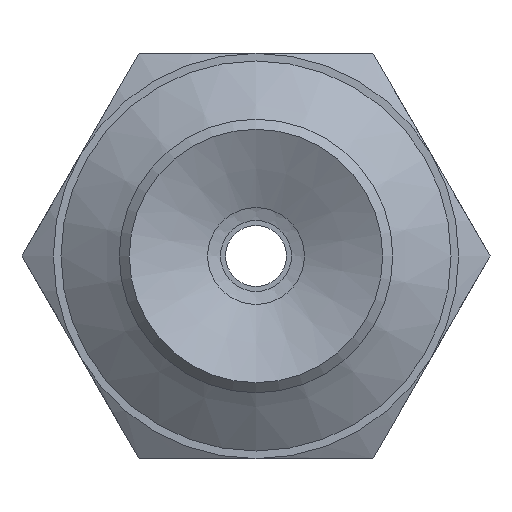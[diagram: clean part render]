
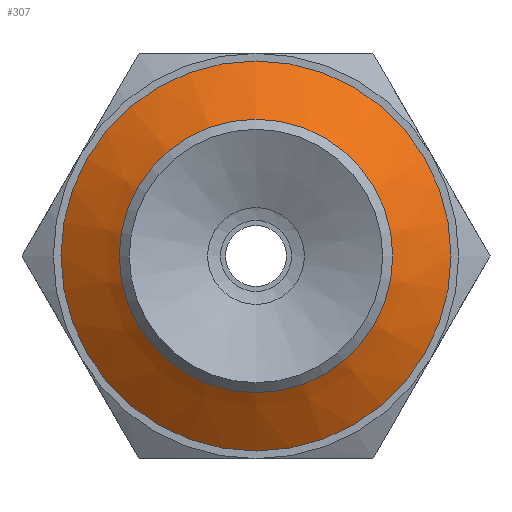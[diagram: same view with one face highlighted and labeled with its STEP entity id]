
A CAD part, front view. The second image highlights one B-rep face of the part: STEP entity #307.
In plain terms, the highlighted conical face has half-angle 55 degrees and reference radius 1.794 mm.
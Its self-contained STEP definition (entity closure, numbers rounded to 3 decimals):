
#307=ADVANCED_FACE('',(#427,#428),#429,.T.);
#427=FACE_BOUND('',#578,.T.);
#428=FACE_OUTER_BOUND('',#579,.T.);
#429=CONICAL_SURFACE('',#580,1.794,0.96);
#578=EDGE_LOOP('',(#884));
#579=EDGE_LOOP('',(#885));
#580=AXIS2_PLACEMENT_3D('',#886,#887,#888);
#884=ORIENTED_EDGE('',*,*,#1018,.T.);
#885=ORIENTED_EDGE('',*,*,#1015,.T.);
#886=CARTESIAN_POINT('',(0.0,7.118,0.));
#887=DIRECTION('',(0.0,1.0,0.));
#888=DIRECTION('',(0.0,0.,1.0));
#1015=EDGE_CURVE('',#1128,#1128,#1129,.T.);
#1018=EDGE_CURVE('',#1134,#1134,#1135,.T.);
#1128=VERTEX_POINT('',#1294);
#1129=CIRCLE('',#1295,3.85);
#1134=VERTEX_POINT('',#1300);
#1135=CIRCLE('',#1301,2.114);
#1294=CARTESIAN_POINT('',(0.0,8.558,-3.85));
#1295=AXIS2_PLACEMENT_3D('',#1430,#1431,#1432);
#1300=CARTESIAN_POINT('',(0.0,7.342,2.114));
#1301=AXIS2_PLACEMENT_3D('',#1439,#1440,#1441);
#1430=CARTESIAN_POINT('',(0.0,8.558,0.));
#1431=DIRECTION('',(0.0,-1.0,0.));
#1432=DIRECTION('',(0.0,0.,-1.0));
#1439=CARTESIAN_POINT('',(0.0,7.342,0.));
#1440=DIRECTION('',(0.0,1.0,0.));
#1441=DIRECTION('',(0.0,0.,1.0));
